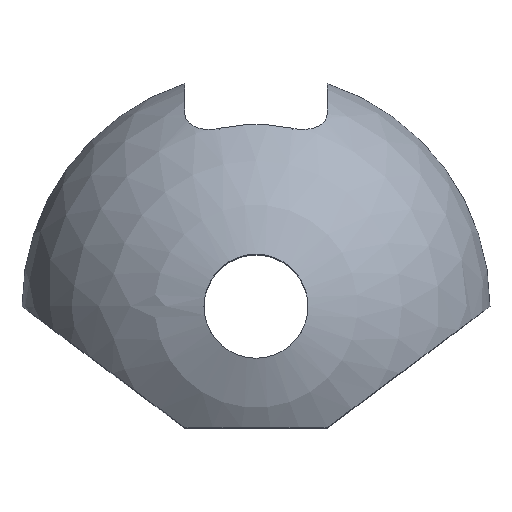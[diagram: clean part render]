
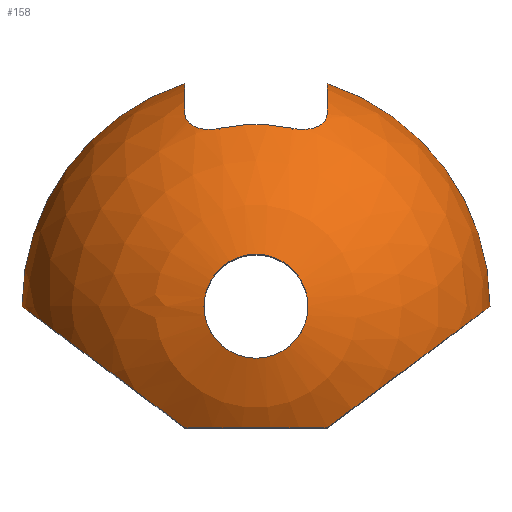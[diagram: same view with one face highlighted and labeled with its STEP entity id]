
A CAD part, top view. The second image highlights one B-rep face of the part: STEP entity #158.
In plain terms, the highlighted spherical face has radius 13.5 mm.
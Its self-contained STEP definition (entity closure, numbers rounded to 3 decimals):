
#3 = B_SPLINE_CURVE_WITH_KNOTS ( 'NONE', 3,
 ( #378, #379, #380, #381, #382, #383, #384, #385, #386, #387, #388, #389 ),
 .UNSPECIFIED., .F., .F.,
 ( 4, 2, 2, 2, 2, 4 ),
 ( 0., 0.001, 0.002, 0.002, 0.002, 0.003 ),
 .UNSPECIFIED. ) ;
#10 = FACE_OUTER_BOUND ( 'NONE', #235, .T. ) ;
#11 = SPHERICAL_SURFACE ( 'NONE', #12, 13.5 ) ;
#12 = AXIS2_PLACEMENT_3D ( 'NONE', #323, #324, #325 ) ;
#24 = FACE_BOUND ( 'NONE', #232, .T. ) ;
#39 = AXIS2_PLACEMENT_3D ( 'NONE', #699, #706, #707 ) ;
#46 = AXIS2_PLACEMENT_3D ( 'NONE', #652, #653, #654 ) ;
#52 = AXIS2_PLACEMENT_3D ( 'NONE', #637, #638, #639 ) ;
#57 = AXIS2_PLACEMENT_3D ( 'NONE', #615, #616, #617 ) ;
#76 = AXIS2_PLACEMENT_3D ( 'NONE', #525, #526, #527 ) ;
#77 = AXIS2_PLACEMENT_3D ( 'NONE', #528, #529, #530 ) ;
#79 = AXIS2_PLACEMENT_3D ( 'NONE', #531, #532, #533 ) ;
#84 = AXIS2_PLACEMENT_3D ( 'NONE', #534, #535, #536 ) ;
#87 = AXIS2_PLACEMENT_3D ( 'NONE', #522, #523, #524 ) ;
#97 = AXIS2_PLACEMENT_3D ( 'NONE', #390, #391, #392 ) ;
#137 = B_SPLINE_CURVE_WITH_KNOTS ( 'NONE', 3,
 ( #549, #550, #551, #552, #553, #554, #555, #556, #557, #558, #559, #560, #561, #562 ),
 .UNSPECIFIED., .F., .F.,
 ( 4, 2, 2, 2, 2, 2, 4 ),
 ( 0., 0., 0.001, 0.001, 0.002, 0.002, 0.003 ),
 .UNSPECIFIED. ) ;
#158 = ADVANCED_FACE ( 'NONE', ( #10, #24 ), #11, .T. ) ;
#174 = EDGE_CURVE ( 'NONE', #258, #265, #3, .T. ) ;
#175 = EDGE_CURVE ( 'NONE', #277, #258, #177, .T. ) ;
#177 = CIRCLE ( 'NONE', #97, 12.862 ) ;
#178 = CIRCLE ( 'NONE', #87, 3. ) ;
#181 = CIRCLE ( 'NONE', #76, 10.828 ) ;
#182 = CIRCLE ( 'NONE', #77, 11.543 ) ;
#183 = CIRCLE ( 'NONE', #79, 10.828 ) ;
#184 = CIRCLE ( 'NONE', #84, 12.862 ) ;
#187 = CIRCLE ( 'NONE', #57, 3. ) ;
#190 = CIRCLE ( 'NONE', #52, 13.5 ) ;
#195 = CIRCLE ( 'NONE', #46, 13.5 ) ;
#200 = CIRCLE ( 'NONE', #39, 10.488 ) ;
#232 = EDGE_LOOP ( 'NONE', ( #835, #836 ) ) ;
#235 = EDGE_LOOP ( 'NONE', ( #884, #888, #887, #291, #843, #841, #842, #840, #838, #839 ) ) ;
#255 = VERTEX_POINT ( 'NONE', #404 ) ;
#256 = VERTEX_POINT ( 'NONE', #405 ) ;
#257 = VERTEX_POINT ( 'NONE', #406 ) ;
#258 = VERTEX_POINT ( 'NONE', #407 ) ;
#263 = VERTEX_POINT ( 'NONE', #412 ) ;
#265 = VERTEX_POINT ( 'NONE', #414 ) ;
#272 = VERTEX_POINT ( 'NONE', #421 ) ;
#273 = VERTEX_POINT ( 'NONE', #422 ) ;
#276 = VERTEX_POINT ( 'NONE', #425 ) ;
#277 = VERTEX_POINT ( 'NONE', #426 ) ;
#281 = VERTEX_POINT ( 'NONE', #430 ) ;
#282 = VERTEX_POINT ( 'NONE', #431 ) ;
#291 = ORIENTED_EDGE ( 'NONE', *, *, #954, .T. ) ;
#323 = CARTESIAN_POINT ( 'NONE',  ( 0., 7., 0. ) ) ;
#324 = DIRECTION ( 'NONE',  ( 0., 0., -1. ) ) ;
#325 = DIRECTION ( 'NONE',  ( -1., 0., 0. ) ) ;
#378 = CARTESIAN_POINT ( 'NONE',  ( 4.1, 18.099, 6.5 ) ) ;
#379 = CARTESIAN_POINT ( 'NONE',  ( 4.1, 17.958, 6.741 ) ) ;
#380 = CARTESIAN_POINT ( 'NONE',  ( 4.058, 17.824, 6.979 ) ) ;
#381 = CARTESIAN_POINT ( 'NONE',  ( 3.88, 17.575, 7.447 ) ) ;
#382 = CARTESIAN_POINT ( 'NONE',  ( 3.749, 17.467, 7.663 ) ) ;
#383 = CARTESIAN_POINT ( 'NONE',  ( 3.477, 17.338, 7.956 ) ) ;
#384 = CARTESIAN_POINT ( 'NONE',  ( 3.376, 17.302, 8.046 ) ) ;
#385 = CARTESIAN_POINT ( 'NONE',  ( 3.156, 17.247, 8.204 ) ) ;
#386 = CARTESIAN_POINT ( 'NONE',  ( 3.034, 17.228, 8.274 ) ) ;
#387 = CARTESIAN_POINT ( 'NONE',  ( 2.655, 17.199, 8.441 ) ) ;
#388 = CARTESIAN_POINT ( 'NONE',  ( 2.375, 17.219, 8.5 ) ) ;
#389 = CARTESIAN_POINT ( 'NONE',  ( 2.1, 17.276, 8.5 ) ) ;
#390 = CARTESIAN_POINT ( 'NONE',  ( 4.1, 7., 0. ) ) ;
#391 = DIRECTION ( 'NONE',  ( 1., 0., 0. ) ) ;
#392 = DIRECTION ( 'NONE',  ( 0., 0., -1. ) ) ;
#404 = CARTESIAN_POINT ( 'NONE',  ( 4.1, 0., 10.791 ) ) ;
#405 = CARTESIAN_POINT ( 'NONE',  ( -4.1, 0., 10.791 ) ) ;
#406 = CARTESIAN_POINT ( 'NONE',  ( -4.1, 18.099, 6.5 ) ) ;
#407 = CARTESIAN_POINT ( 'NONE',  ( 4.1, 18.099, 6.5 ) ) ;
#412 = CARTESIAN_POINT ( 'NONE',  ( -2.1, 17.276, 8.5 ) ) ;
#414 = CARTESIAN_POINT ( 'NONE',  ( 2.1, 17.276, 8.5 ) ) ;
#421 = CARTESIAN_POINT ( 'NONE',  ( -4.1, 19.862, 0. ) ) ;
#422 = CARTESIAN_POINT ( 'NONE',  ( -13.5, 7., 0. ) ) ;
#425 = CARTESIAN_POINT ( 'NONE',  ( 13.5, 7., 0. ) ) ;
#426 = CARTESIAN_POINT ( 'NONE',  ( 4.1, 19.862, 0. ) ) ;
#430 = CARTESIAN_POINT ( 'NONE',  ( 3., 7., 13.162 ) ) ;
#431 = CARTESIAN_POINT ( 'NONE',  ( -3., 7., 13.162 ) ) ;
#522 = CARTESIAN_POINT ( 'NONE',  ( 0., 7., 13.162 ) ) ;
#523 = DIRECTION ( 'NONE',  ( 0., 0., -1. ) ) ;
#524 = DIRECTION ( 'NONE',  ( -1., 0., 0. ) ) ;
#525 = CARTESIAN_POINT ( 'NONE',  ( 4.816, 0.533, 0. ) ) ;
#526 = DIRECTION ( 'NONE',  ( -0.597, 0.802, 0. ) ) ;
#527 = DIRECTION ( 'NONE',  ( -0.802, -0.597, 0. ) ) ;
#528 = CARTESIAN_POINT ( 'NONE',  ( 0., 0., 0. ) ) ;
#529 = DIRECTION ( 'NONE',  ( 0., -1., 0. ) ) ;
#530 = DIRECTION ( 'NONE',  ( 1., 0., 0. ) ) ;
#531 = CARTESIAN_POINT ( 'NONE',  ( -4.816, 0.533, 0. ) ) ;
#532 = DIRECTION ( 'NONE',  ( 0.597, 0.802, 0. ) ) ;
#533 = DIRECTION ( 'NONE',  ( -0.802, 0.597, 0. ) ) ;
#534 = CARTESIAN_POINT ( 'NONE',  ( -4.1, 7., 0. ) ) ;
#535 = DIRECTION ( 'NONE',  ( -1., 0., 0. ) ) ;
#536 = DIRECTION ( 'NONE',  ( 0., 0., 1. ) ) ;
#549 = CARTESIAN_POINT ( 'NONE',  ( -2.1, 17.276, 8.5 ) ) ;
#550 = CARTESIAN_POINT ( 'NONE',  ( -2.237, 17.248, 8.5 ) ) ;
#551 = CARTESIAN_POINT ( 'NONE',  ( -2.373, 17.229, 8.486 ) ) ;
#552 = CARTESIAN_POINT ( 'NONE',  ( -2.644, 17.209, 8.43 ) ) ;
#553 = CARTESIAN_POINT ( 'NONE',  ( -2.778, 17.209, 8.386 ) ) ;
#554 = CARTESIAN_POINT ( 'NONE',  ( -3.031, 17.227, 8.276 ) ) ;
#555 = CARTESIAN_POINT ( 'NONE',  ( -3.151, 17.246, 8.207 ) ) ;
#556 = CARTESIAN_POINT ( 'NONE',  ( -3.373, 17.301, 8.048 ) ) ;
#557 = CARTESIAN_POINT ( 'NONE',  ( -3.473, 17.337, 7.96 ) ) ;
#558 = CARTESIAN_POINT ( 'NONE',  ( -3.745, 17.464, 7.668 ) ) ;
#559 = CARTESIAN_POINT ( 'NONE',  ( -3.88, 17.575, 7.446 ) ) ;
#560 = CARTESIAN_POINT ( 'NONE',  ( -4.057, 17.822, 6.982 ) ) ;
#561 = CARTESIAN_POINT ( 'NONE',  ( -4.1, 17.958, 6.741 ) ) ;
#562 = CARTESIAN_POINT ( 'NONE',  ( -4.1, 18.099, 6.5 ) ) ;
#615 = CARTESIAN_POINT ( 'NONE',  ( 0., 7., 13.162 ) ) ;
#616 = DIRECTION ( 'NONE',  ( 0., 0., -1. ) ) ;
#617 = DIRECTION ( 'NONE',  ( -1., 0., 0. ) ) ;
#637 = CARTESIAN_POINT ( 'NONE',  ( 0., 7., 0. ) ) ;
#638 = DIRECTION ( 'NONE',  ( 0., 0., -1. ) ) ;
#639 = DIRECTION ( 'NONE',  ( -1., 0., 0. ) ) ;
#652 = CARTESIAN_POINT ( 'NONE',  ( 0., 7., 0. ) ) ;
#653 = DIRECTION ( 'NONE',  ( 0., 0., 1. ) ) ;
#654 = DIRECTION ( 'NONE',  ( 1., 0., 0. ) ) ;
#699 = CARTESIAN_POINT ( 'NONE',  ( 0., 7., 8.5 ) ) ;
#706 = DIRECTION ( 'NONE',  ( 0., 0., 1. ) ) ;
#707 = DIRECTION ( 'NONE',  ( 1., 0., 0. ) ) ;
#835 = ORIENTED_EDGE ( 'NONE', *, *, #933, .T. ) ;
#836 = ORIENTED_EDGE ( 'NONE', *, *, #913, .T. ) ;
#838 = ORIENTED_EDGE ( 'NONE', *, *, #915, .F. ) ;
#839 = ORIENTED_EDGE ( 'NONE', *, *, #914, .T. ) ;
#840 = ORIENTED_EDGE ( 'NONE', *, *, #916, .T. ) ;
#841 = ORIENTED_EDGE ( 'NONE', *, *, #917, .T. ) ;
#842 = ORIENTED_EDGE ( 'NONE', *, *, #943, .T. ) ;
#843 = ORIENTED_EDGE ( 'NONE', *, *, #922, .T. ) ;
#884 = ORIENTED_EDGE ( 'NONE', *, *, #938, .F. ) ;
#887 = ORIENTED_EDGE ( 'NONE', *, *, #174, .T. ) ;
#888 = ORIENTED_EDGE ( 'NONE', *, *, #175, .T. ) ;
#913 = EDGE_CURVE ( 'NONE', #282, #281, #178, .T. ) ;
#914 = EDGE_CURVE ( 'NONE', #255, #276, #181, .T. ) ;
#915 = EDGE_CURVE ( 'NONE', #255, #256, #182, .T. ) ;
#916 = EDGE_CURVE ( 'NONE', #273, #256, #183, .T. ) ;
#917 = EDGE_CURVE ( 'NONE', #257, #272, #184, .T. ) ;
#922 = EDGE_CURVE ( 'NONE', #263, #257, #137, .T. ) ;
#933 = EDGE_CURVE ( 'NONE', #281, #282, #187, .T. ) ;
#938 = EDGE_CURVE ( 'NONE', #277, #276, #190, .T. ) ;
#943 = EDGE_CURVE ( 'NONE', #272, #273, #195, .T. ) ;
#954 = EDGE_CURVE ( 'NONE', #265, #263, #200, .T. ) ;
